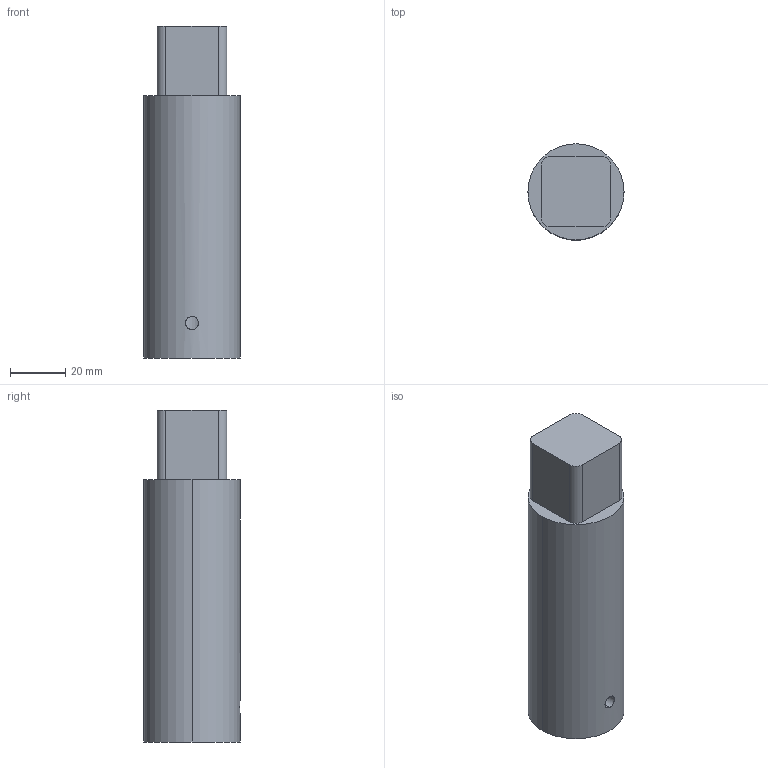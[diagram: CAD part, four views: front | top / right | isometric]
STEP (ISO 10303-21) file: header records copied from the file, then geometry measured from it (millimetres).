
FILE_DESCRIPTION (( 'STEP AP203' ), '1' );
FILE_NAME ('4 inch Seal Holder Base.STEP', '2020-02-20T05:33:08', ( '' ), ( '' ), 'SwSTEP 2.0', 'SolidWorks 2017', '' );
FILE_SCHEMA (( 'CONFIG_CONTROL_DESIGN' ));
Length unit declared in the file: inch
Products named in the file (1): 4 inch Seal Holder Base
Bounding box: 34.9 x 34.9 x 120.65 mm (x, y, z)
Volume: 104601.9 mm3; surface area: 15787.1 mm2
Topology: 1 solids, 1 shells, 21 faces, 50 edges, 31 vertices
Faces by surface type: cylinder 10, plane 7, cone 4
Entity records: 787 total; most frequent: CARTESIAN_POINT 217, DIRECTION 106, ORIENTED_EDGE 96, EDGE_CURVE 48, AXIS2_PLACEMENT_3D 40, VERTEX_POINT 31, VECTOR 26, LINE 26
